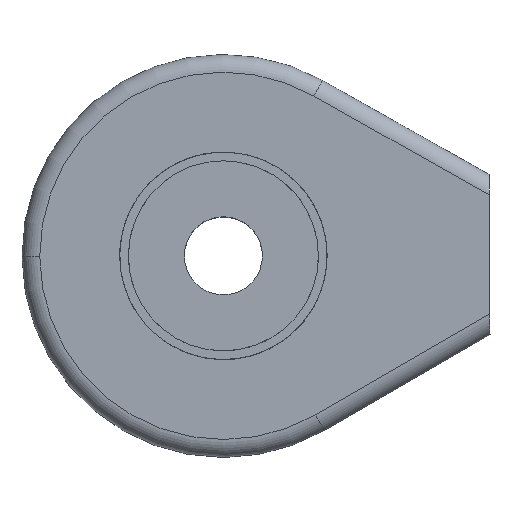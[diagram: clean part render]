
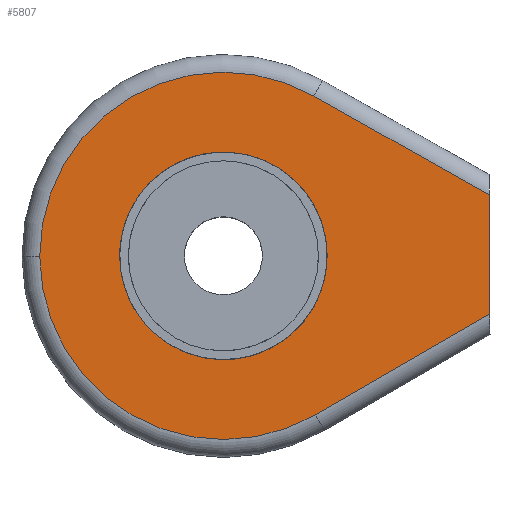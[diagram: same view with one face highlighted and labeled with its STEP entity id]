
A CAD part, top view. The second image highlights one B-rep face of the part: STEP entity #5807.
In plain terms, the highlighted planar face has unit normal (0, 0, 1).
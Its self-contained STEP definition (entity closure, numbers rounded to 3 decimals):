
#16 = DIRECTION ( 'NONE',  ( 0., 0., -1. ) ) ;
#121 = CARTESIAN_POINT ( 'NONE',  ( 5.136, 8.986, 5.35 ) ) ;
#329 = DIRECTION ( 'NONE',  ( -1., 0., 0. ) ) ;
#347 = VERTEX_POINT ( 'NONE', #2345 ) ;
#496 = DIRECTION ( 'NONE',  ( -1., 0., 0. ) ) ;
#497 = CARTESIAN_POINT ( 'NONE',  ( 15., -3.348, 5.35 ) ) ;
#579 = ORIENTED_EDGE ( 'NONE', *, *, #4194, .T. ) ;
#783 = DIRECTION ( 'NONE',  ( 0., 0., 1. ) ) ;
#886 = CARTESIAN_POINT ( 'NONE',  ( 0., 0., 5.35 ) ) ;
#912 = PLANE ( 'NONE',  #8800 ) ;
#985 = DIRECTION ( 'NONE',  ( -0.868, 0.496, 0. ) ) ;
#1026 = LINE ( 'NONE', #1078, #2137 ) ;
#1078 = CARTESIAN_POINT ( 'NONE',  ( 15., 4.5, 5.35 ) ) ;
#1516 = FACE_OUTER_BOUND ( 'NONE', #4671, .T. ) ;
#1685 = EDGE_CURVE ( 'NONE', #5550, #347, #2605, .T. ) ;
#1820 = DIRECTION ( 'NONE',  ( 0., 0., 1. ) ) ;
#1941 = ORIENTED_EDGE ( 'NONE', *, *, #2599, .T. ) ;
#1964 = ORIENTED_EDGE ( 'NONE', *, *, #5434, .T. ) ;
#2137 = VECTOR ( 'NONE', #7784, 1000. ) ;
#2345 = CARTESIAN_POINT ( 'NONE',  ( -10.35, 0., 5.35 ) ) ;
#2519 = CARTESIAN_POINT ( 'NONE',  ( 5.136, -8.986, 5.35 ) ) ;
#2543 = DIRECTION ( 'NONE',  ( 1., 0., 0. ) ) ;
#2599 = EDGE_CURVE ( 'NONE', #3101, #3132, #1026, .T. ) ;
#2605 = CIRCLE ( 'NONE', #3893, 10.35 ) ;
#2892 = EDGE_LOOP ( 'NONE', ( #3654, #9540 ) ) ;
#3027 = CIRCLE ( 'NONE', #8137, 5.85 ) ;
#3101 = VERTEX_POINT ( 'NONE', #497 ) ;
#3124 = ORIENTED_EDGE ( 'NONE', *, *, #8703, .T. ) ;
#3132 = VERTEX_POINT ( 'NONE', #3621 ) ;
#3306 = LINE ( 'NONE', #4818, #8853 ) ;
#3494 = CARTESIAN_POINT ( 'NONE',  ( 5.85, 0., 5.35 ) ) ;
#3621 = CARTESIAN_POINT ( 'NONE',  ( 15., 3.348, 5.35 ) ) ;
#3654 = ORIENTED_EDGE ( 'NONE', *, *, #4315, .F. ) ;
#3710 = DIRECTION ( 'NONE',  ( 0.868, 0.496, 0. ) ) ;
#3783 = CARTESIAN_POINT ( 'NONE',  ( -5.85, 0., 5.35 ) ) ;
#3835 = DIRECTION ( 'NONE',  ( -1., 0., 0. ) ) ;
#3856 = CIRCLE ( 'NONE', #8791, 10.35 ) ;
#3893 = AXIS2_PLACEMENT_3D ( 'NONE', #5468, #1820, #329 ) ;
#3996 = VECTOR ( 'NONE', #3710, 1000. ) ;
#4194 = EDGE_CURVE ( 'NONE', #4962, #3101, #6547, .T. ) ;
#4315 = EDGE_CURVE ( 'NONE', #7529, #6500, #3027, .T. ) ;
#4576 = CARTESIAN_POINT ( 'NONE',  ( 5.136, -8.986, 5.35 ) ) ;
#4600 = FACE_BOUND ( 'NONE', #2892, .T. ) ;
#4671 = EDGE_LOOP ( 'NONE', ( #1941, #3124, #8093, #1964, #579 ) ) ;
#4818 = CARTESIAN_POINT ( 'NONE',  ( 5.136, 8.986, 5.35 ) ) ;
#4962 = VERTEX_POINT ( 'NONE', #2519 ) ;
#5390 = CARTESIAN_POINT ( 'NONE',  ( 0., 0., 5.35 ) ) ;
#5394 = AXIS2_PLACEMENT_3D ( 'NONE', #5390, #6237, #5437 ) ;
#5434 = EDGE_CURVE ( 'NONE', #347, #4962, #3856, .T. ) ;
#5437 = DIRECTION ( 'NONE',  ( 1., 0., 0. ) ) ;
#5468 = CARTESIAN_POINT ( 'NONE',  ( 0., 0., 5.35 ) ) ;
#5550 = VERTEX_POINT ( 'NONE', #121 ) ;
#5796 = CARTESIAN_POINT ( 'NONE',  ( 0., 0., 5.35 ) ) ;
#5807 = ADVANCED_FACE ( 'NONE', ( #1516, #4600 ), #912, .F. ) ;
#6237 = DIRECTION ( 'NONE',  ( 0., 0., 1. ) ) ;
#6500 = VERTEX_POINT ( 'NONE', #3494 ) ;
#6547 = LINE ( 'NONE', #4576, #3996 ) ;
#6598 = DIRECTION ( 'NONE',  ( 0., 0., 1. ) ) ;
#7529 = VERTEX_POINT ( 'NONE', #3783 ) ;
#7772 = CARTESIAN_POINT ( 'NONE',  ( 0., 0., 5.35 ) ) ;
#7784 = DIRECTION ( 'NONE',  ( 0., 1., 0. ) ) ;
#8093 = ORIENTED_EDGE ( 'NONE', *, *, #1685, .T. ) ;
#8137 = AXIS2_PLACEMENT_3D ( 'NONE', #886, #783, #2543 ) ;
#8703 = EDGE_CURVE ( 'NONE', #3132, #5550, #3306, .T. ) ;
#8791 = AXIS2_PLACEMENT_3D ( 'NONE', #5796, #6598, #496 ) ;
#8800 = AXIS2_PLACEMENT_3D ( 'NONE', #7772, #16, #3835 ) ;
#8853 = VECTOR ( 'NONE', #985, 1000. ) ;
#9111 = EDGE_CURVE ( 'NONE', #6500, #7529, #9663, .T. ) ;
#9540 = ORIENTED_EDGE ( 'NONE', *, *, #9111, .F. ) ;
#9663 = CIRCLE ( 'NONE', #5394, 5.85 ) ;
